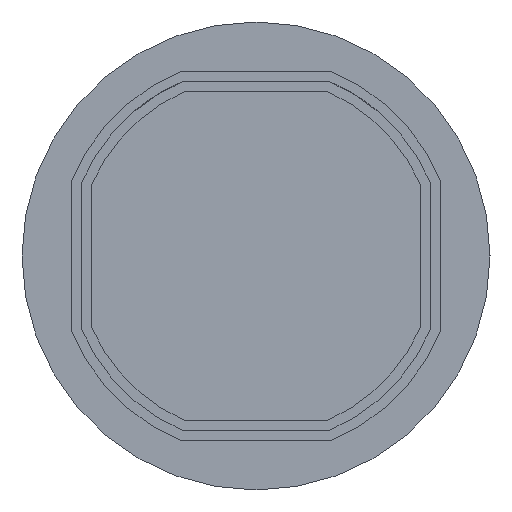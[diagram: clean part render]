
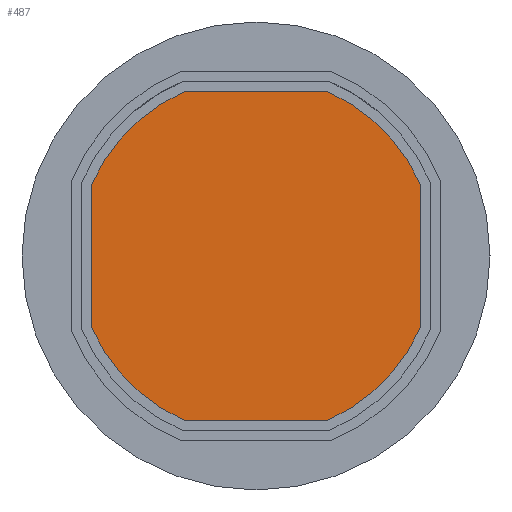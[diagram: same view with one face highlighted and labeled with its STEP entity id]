
A CAD part, left-side view. The second image highlights one B-rep face of the part: STEP entity #487.
In plain terms, the highlighted planar face has unit normal (-1, 0, 0).
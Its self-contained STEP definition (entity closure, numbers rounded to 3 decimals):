
#133 = CARTESIAN_POINT ( 'NONE',  ( -13., -0.719, -1.65 ) ) ;
#134 = DIRECTION ( 'NONE',  ( 0., 0., 1. ) ) ;
#135 = DIRECTION ( 'NONE',  ( -1., 0., 0. ) ) ;
#136 = AXIS2_PLACEMENT_3D ( 'NONE', #142, #135, #134 ) ;
#137 = CIRCLE ( 'NONE', #136, 1.8 ) ;
#142 = CARTESIAN_POINT ( 'NONE',  ( -13., 0., 0. ) ) ;
#358 = EDGE_CURVE ( 'NONE', #359, #448, #964, .T. ) ;
#359 = VERTEX_POINT ( 'NONE', #960 ) ;
#425 = EDGE_CURVE ( 'NONE', #426, #359, #982, .T. ) ;
#426 = VERTEX_POINT ( 'NONE', #1044 ) ;
#434 = EDGE_CURVE ( 'NONE', #435, #426, #1050, .T. ) ;
#435 = VERTEX_POINT ( 'NONE', #1038 ) ;
#447 = EDGE_CURVE ( 'NONE', #448, #449, #1073, .T. ) ;
#448 = VERTEX_POINT ( 'NONE', #1075 ) ;
#449 = VERTEX_POINT ( 'NONE', #1074 ) ;
#471 = ORIENTED_EDGE ( 'NONE', *, *, #358, .T. ) ;
#487 = ADVANCED_FACE ( 'NONE', ( #1200 ), #1195, .F. ) ;
#488 = EDGE_LOOP ( 'NONE', ( #489, #490, #491, #492, #493, #494, #495, #471 ) ) ;
#489 = ORIENTED_EDGE ( 'NONE', *, *, #447, .T. ) ;
#490 = ORIENTED_EDGE ( 'NONE', *, *, #548, .T. ) ;
#491 = ORIENTED_EDGE ( 'NONE', *, *, #498, .T. ) ;
#492 = ORIENTED_EDGE ( 'NONE', *, *, #556, .T. ) ;
#493 = ORIENTED_EDGE ( 'NONE', *, *, #573, .T. ) ;
#494 = ORIENTED_EDGE ( 'NONE', *, *, #434, .T. ) ;
#495 = ORIENTED_EDGE ( 'NONE', *, *, #425, .T. ) ;
#498 = EDGE_CURVE ( 'NONE', #564, #557, #1170, .T. ) ;
#548 = EDGE_CURVE ( 'NONE', #449, #564, #1207, .T. ) ;
#556 = EDGE_CURVE ( 'NONE', #557, #574, #1261, .T. ) ;
#557 = VERTEX_POINT ( 'NONE', #1257 ) ;
#564 = VERTEX_POINT ( 'NONE', #1259 ) ;
#573 = EDGE_CURVE ( 'NONE', #574, #435, #137, .T. ) ;
#574 = VERTEX_POINT ( 'NONE', #133 ) ;
#922 = DIRECTION ( 'NONE',  ( 0., 0., 1. ) ) ;
#923 = DIRECTION ( 'NONE',  ( -1., 0., 0. ) ) ;
#960 = CARTESIAN_POINT ( 'NONE',  ( -13., -0.719, 1.65 ) ) ;
#961 = DIRECTION ( 'NONE',  ( 0., 1., 0. ) ) ;
#962 = VECTOR ( 'NONE', #961, 1000. ) ;
#963 = CARTESIAN_POINT ( 'NONE',  ( -13., -0.719, 1.65 ) ) ;
#964 = LINE ( 'NONE', #963, #962 ) ;
#980 = CARTESIAN_POINT ( 'NONE',  ( -13., 0., 0. ) ) ;
#981 = AXIS2_PLACEMENT_3D ( 'NONE', #980, #923, #922 ) ;
#982 = CIRCLE ( 'NONE', #981, 1.8 ) ;
#1038 = CARTESIAN_POINT ( 'NONE',  ( -13., -1.65, -0.719 ) ) ;
#1044 = CARTESIAN_POINT ( 'NONE',  ( -13., -1.65, 0.719 ) ) ;
#1050 = LINE ( 'NONE', #1051, #1055 ) ;
#1051 = CARTESIAN_POINT ( 'NONE',  ( -13., -1.65, -0.719 ) ) ;
#1054 = DIRECTION ( 'NONE',  ( 0., 0., 1. ) ) ;
#1055 = VECTOR ( 'NONE', #1054, 1000. ) ;
#1073 = CIRCLE ( 'NONE', #1079, 1.8 ) ;
#1074 = CARTESIAN_POINT ( 'NONE',  ( -13., 1.65, 0.719 ) ) ;
#1075 = CARTESIAN_POINT ( 'NONE',  ( -13., 0.719, 1.65 ) ) ;
#1076 = DIRECTION ( 'NONE',  ( 0., 0., 1. ) ) ;
#1077 = DIRECTION ( 'NONE',  ( -1., 0., 0. ) ) ;
#1078 = CARTESIAN_POINT ( 'NONE',  ( -13., 0., 0. ) ) ;
#1079 = AXIS2_PLACEMENT_3D ( 'NONE', #1078, #1077, #1076 ) ;
#1166 = DIRECTION ( 'NONE',  ( 0., 0., 1. ) ) ;
#1167 = DIRECTION ( 'NONE',  ( -1., 0., 0. ) ) ;
#1168 = CARTESIAN_POINT ( 'NONE',  ( -13., 0., 0. ) ) ;
#1169 = AXIS2_PLACEMENT_3D ( 'NONE', #1168, #1167, #1166 ) ;
#1170 = CIRCLE ( 'NONE', #1169, 1.8 ) ;
#1171 = DIRECTION ( 'NONE',  ( 0., 0., -1. ) ) ;
#1195 = PLANE ( 'NONE',  #1199 ) ;
#1197 = DIRECTION ( 'NONE',  ( 1., 0., 0. ) ) ;
#1198 = CARTESIAN_POINT ( 'NONE',  ( -13., 0., 0. ) ) ;
#1199 = AXIS2_PLACEMENT_3D ( 'NONE', #1198, #1197, #1171 ) ;
#1200 = FACE_OUTER_BOUND ( 'NONE', #488, .T. ) ;
#1207 = LINE ( 'NONE', #1245, #1244 ) ;
#1243 = DIRECTION ( 'NONE',  ( 0., 0., -1. ) ) ;
#1244 = VECTOR ( 'NONE', #1243, 1000. ) ;
#1245 = CARTESIAN_POINT ( 'NONE',  ( -13., 1.65, 0.719 ) ) ;
#1249 = CARTESIAN_POINT ( 'NONE',  ( -13., 0.719, -1.65 ) ) ;
#1252 = VECTOR ( 'NONE', #1253, 1000. ) ;
#1253 = DIRECTION ( 'NONE',  ( 0., -1., 0. ) ) ;
#1257 = CARTESIAN_POINT ( 'NONE',  ( -13., 0.719, -1.65 ) ) ;
#1259 = CARTESIAN_POINT ( 'NONE',  ( -13., 1.65, -0.719 ) ) ;
#1261 = LINE ( 'NONE', #1249, #1252 ) ;
